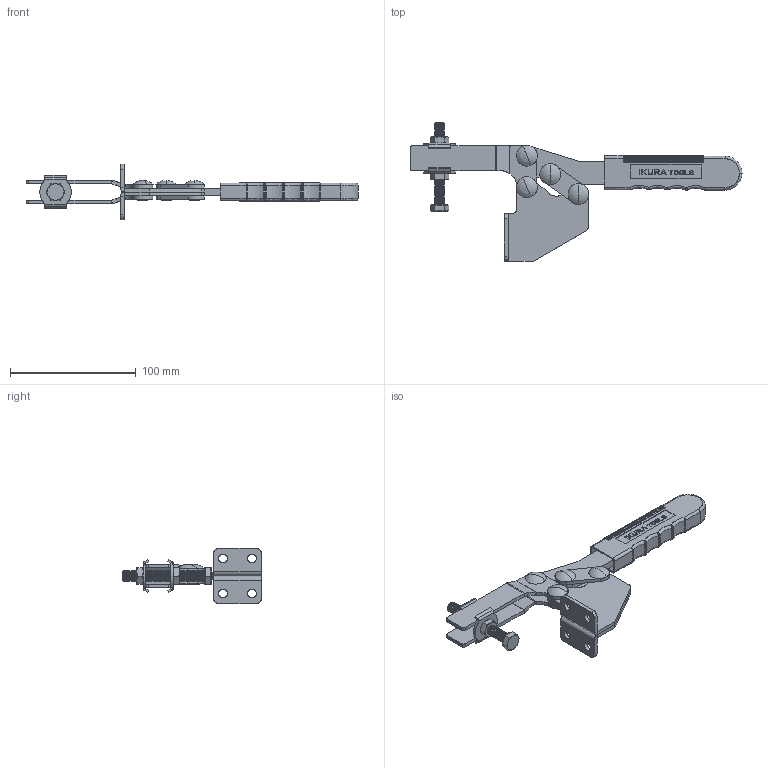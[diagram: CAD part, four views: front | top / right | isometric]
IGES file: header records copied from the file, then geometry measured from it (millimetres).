
Start section: SolidWorks IGES file using analytic representation for surfaces
Global section: file name: \\BARTOP_SV6\share\SOLIDWORKS\工具事業部\坂入用\受け渡し\2015.07.01\ISK-38C大0\ISK-38C大0.IGS,15HSolidWorks; native system: 2015; preprocessor: SolidWorks 2015; author: SOLID02; date: 150701.102047; units: millimetre
Bounding box: 264.1 x 110.33 x 44 mm (x, y, z)
Surface area: 62044.3 mm2 (no closed solid volume)
Topology: 0 solids, 0 shells, 1806 faces, 18640 edges, 18620 vertices
Faces by surface type: bspline 1033, revolution 773
